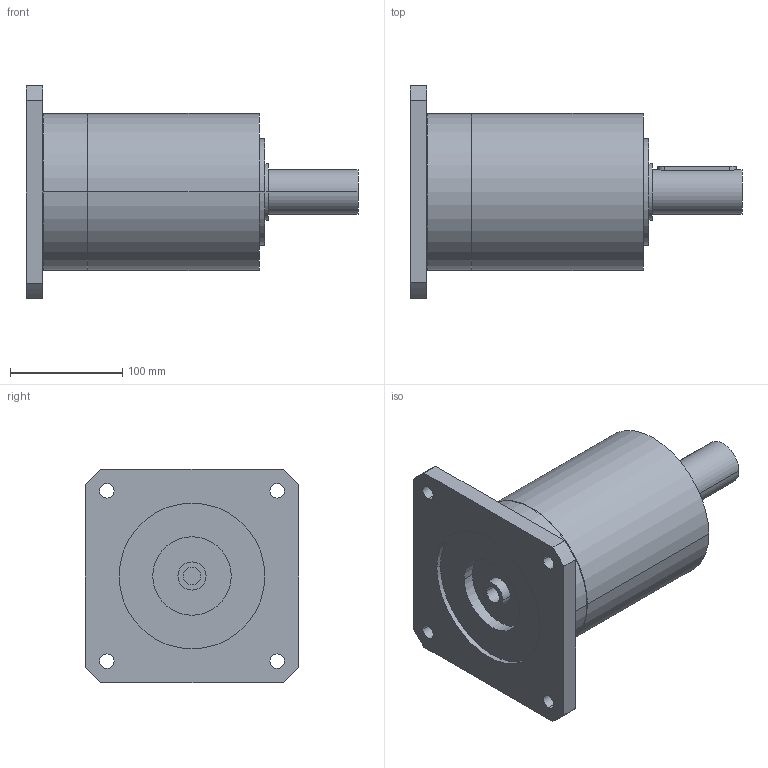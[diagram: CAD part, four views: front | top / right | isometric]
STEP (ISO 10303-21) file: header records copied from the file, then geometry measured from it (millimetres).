
FILE_DESCRIPTION(('CoCreate Modeling STEP Export'),'2;1');
FILE_NAME('GPR150_ig-9-12-16-20-28-35_40_B14_15.87_P13.stp','2014-08-19T17:02:52',(''),(''),'CoCreate Modeling STEP processor for AP214 (Solid Model)','CoCreate Modeling 16.00C 25-Feb-2009 (C) Parametric Technology GmbH','');
FILE_SCHEMA(('AUTOMOTIVE_DESIGN { 1 0 10303 214 1 1 1 1 }'));
Length unit declared in the file: millimetre
Products named in the file (2): GPR150_ig-9-12-16-20-28-35_40_B14_15.87_P13
Assembly tree (1 placements, depth 2):
  GPR150_ig-9-12-16-20-28-35_40_B14_15.87_P13
    GPR150_ig-9-12-16-20-28-35_40_B14_15.87_P13
Bounding box: 296 x 190 x 190 mm (x, y, z)
Volume: 3525857 mm3; surface area: 193501.3 mm2
Topology: 1 solids, 1 shells, 70 faces, 189 edges, 133 vertices
Faces by surface type: cylinder 42, plane 22, cone 6
Entity records: 1973 total; most frequent: CARTESIAN_POINT 386, ORIENTED_EDGE 374, DIRECTION 264, EDGE_CURVE 187, VERTEX_POINT 133, AXIS2_PLACEMENT_3D 99, EDGE_LOOP 92, FACE_OUTER_BOUND 70
